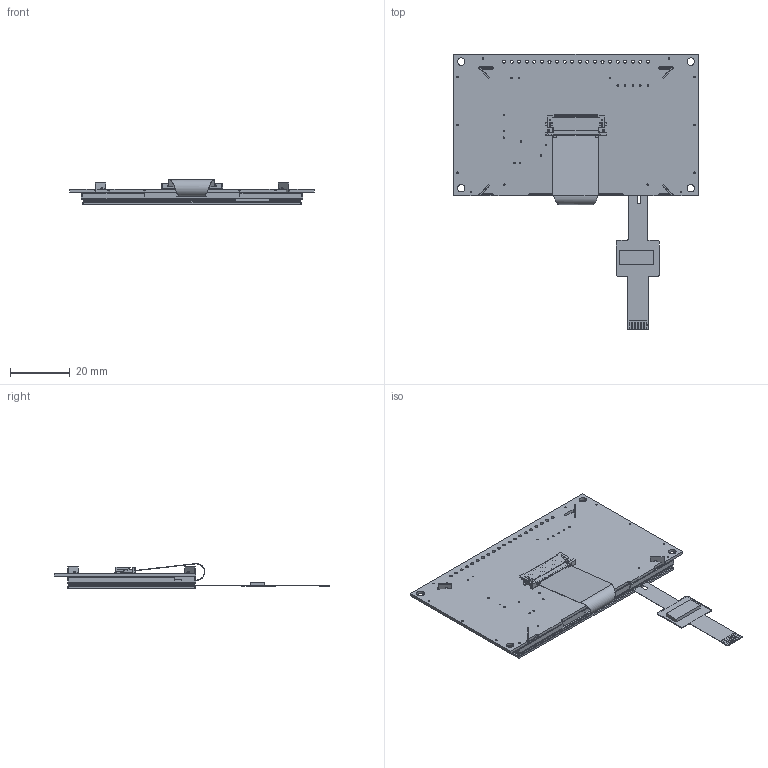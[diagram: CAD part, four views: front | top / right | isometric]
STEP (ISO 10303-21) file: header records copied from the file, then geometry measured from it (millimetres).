
FILE_DESCRIPTION (( 'STEP AP203' ), '1' );
FILE_NAME ('NHD-2.7-12864WDx3-CTP.STEP', '2022-12-29T20:18:50', ( '' ), ( '' ), 'SwSTEP 2.0', 'SolidWorks 2019', '' );
FILE_SCHEMA (( 'CONFIG_CONTROL_DESIGN' ));
Products named in the file (1): NHD-2.7-12864WDx3-CTP
Bounding box: 82 x 92.5 x 8.34 mm (x, y, z)
Volume: 21401.1 mm3; surface area: 56539.2 mm2
Topology: 24 solids, 24 shells, 1988 faces, 6050 edges, 3994 vertices
Faces by surface type: plane 1638, cylinder 346, bspline 4
Entity records: 68085 total; most frequent: CARTESIAN_POINT 13635, ORIENTED_EDGE 12100, DIRECTION 10288, EDGE_CURVE 6050, VECTOR 4954, LINE 4954, VERTEX_POINT 3994, AXIS2_PLACEMENT_3D 2667
